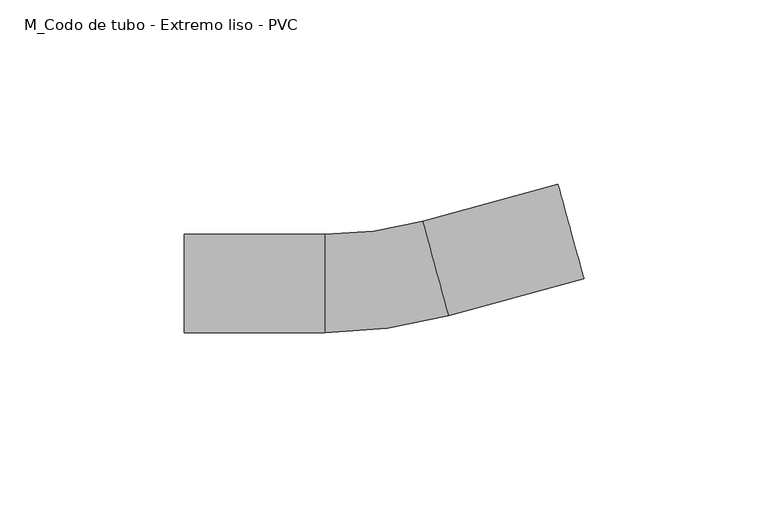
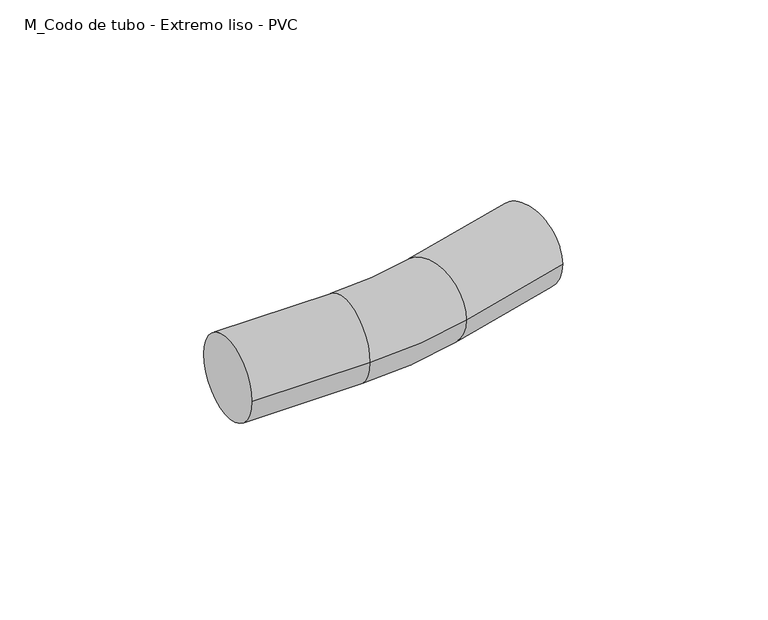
"""IFC4 building model written with IfcOpenShell, lengths in millimetres: cable carrier fitting geometry, M_Codo de tubo - Extremo liso - PVC : CODO ILUMINACION."""

from ifc_helpers import new_model, si_unit, point, frame, origin, place, context, project, spatial, circle_curve, ellipse_curve, trimmed, source, transform, mapped, element, save
from ifc_brep_helpers import plane_surface, cylinder_surface, revolved_surface, advanced_brep


def m_codo_de_tubo_extremo_liso_pvc_ceb821ea(model_context):
    return source(origin(), model_context, "Body", "AdvancedBrep", [
        advanced_brep(
        [(-53.4363503, -13.335, 0.0), (-53.4363503, 13.335, 0.0), (-15.3363503, -13.335, 0.0), (-15.3363503, 13.335, 0.0), (11.2787103, 16.9061102, 0.0), (18.3091036, -8.8205777, 0.0), (55.0615149, 1.2228414, 0.0), (48.0311215, 26.9495293, 0.0)],
        [
            (0, 1, circle_curve(frame((-53.4363503, 0.0, 0.0), z_axis=(-1.0, 0.0, 0.0), x_axis=(0.0, 1.0, 0.0)), 13.335)),
            (1, 0, circle_curve(frame((-53.4363503, 0.0, 0.0), z_axis=(-1.0, 0.0, 0.0), x_axis=(0.0, 1.0, 0.0)), 13.335)),
            (0, 2),
            (2, 3, circle_curve(frame((-15.3363503, 0.0, 0.0), z_axis=(-1.0, 0.0, 0.0), x_axis=(0.0, 1.0, 0.0)), 13.335)),
            (3, 1),
            (3, 2, circle_curve(frame((-15.3363503, 0.0, 0.0), z_axis=(-1.0, 0.0, 0.0), x_axis=(0.0, 1.0, 0.0)), 13.335)),
            (4, 3, circle_curve(frame((-15.3363503, 114.3, 0.0), z_axis=(0.0, 0.0, -1.0), x_axis=(0.0, -1.0, 0.0)), 100.965)),
            (2, 5, circle_curve(frame((-15.3363503, 114.3, 0.0), z_axis=(0.0, 0.0, 1.0), x_axis=(0.0, -1.0, 0.0)), 127.635)),
            (5, 4, circle_curve(frame((14.793907, 4.0427662, 0.0), z_axis=(-0.9646302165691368, -0.263606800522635, 0.0), x_axis=(-0.263606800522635, 0.9646302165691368, 0.0)), 13.335)),
            (4, 5, circle_curve(frame((14.793907, 4.0427662, 0.0), z_axis=(-0.9646302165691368, -0.263606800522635, 0.0), x_axis=(-0.263606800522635, 0.9646302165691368, 0.0)), 13.335)),
            (6, 7, circle_curve(frame((51.5463182, 14.0861853, 0.0), z_axis=(0.9646302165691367, 0.2636068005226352, 0.0), x_axis=(-0.2636068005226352, 0.9646302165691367, 0.0)), 13.335)),
            (7, 6, circle_curve(frame((51.5463182, 14.0861853, 0.0), z_axis=(0.9646302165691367, 0.2636068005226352, 0.0), x_axis=(-0.2636068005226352, 0.9646302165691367, 0.0)), 13.335)),
            (5, 6),
            (7, 4),
        ],
        [
            plane_surface(frame((-53.4363503, 0.0, 0.0), z_axis=(-1.0, 0.0, 0.0), x_axis=(0.0, 0.0, 1.0))),
            cylinder_surface(frame((-53.4363503, 0.0, 0.0), z_axis=(-1.0, 0.0, 0.0), x_axis=(0.0, 1.0, 0.0)), 13.335),
            revolved_surface(trimmed(ellipse_curve(frame((-15.3363503, 0.0, 0.0), z_axis=(-1.0, 0.0, 0.0), x_axis=(0.0, 1.0, 0.0)), 13.335, 13.335), [point((-15.3363503, -13.335, 0.0))], [point((-15.3363503, 13.335, 0.0))], True, "CARTESIAN"), (-15.3363503, 114.3, 0.0), (0.0, 0.0, 1.0)),
            revolved_surface(trimmed(ellipse_curve(frame((-15.3363503, 0.0, 0.0), z_axis=(-1.0, 0.0, 0.0), x_axis=(0.0, 1.0, 0.0)), 13.335, 13.335), [point((-15.3363503, 13.335, 0.0))], [point((-15.3363503, -13.335, 0.0))], True, "CARTESIAN"), (-15.3363503, 114.3, 0.0), (0.0, 0.0, 1.0)),
            plane_surface(frame((51.5463182, 14.0861853, 0.0), z_axis=(0.9646302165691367, 0.2636068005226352, 0.0), x_axis=(0.0, 0.0, 1.0))),
            cylinder_surface(frame((14.793907, 4.0427662, 0.0), z_axis=(-0.9646302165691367, -0.2636068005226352, 0.0), x_axis=(-0.2636068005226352, 0.9646302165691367, 0.0)), 13.335),
        ],
        [
            (0, [[1, 2]]),
            (1, [[-1, 3, 4, 5]]),
            (1, [[-2, -5, 6, -3]]),
            (2, [[7, -4, 8, 9]]),
            (3, [[-8, -6, -7, 10]]),
            (4, [[11, 12]]),
            (5, [[-9, 13, -12, 14]]),
            (5, [[-10, -14, -11, -13]]),
        ],
    ),
    ])


if __name__ == "__main__":
    model = new_model("IFC4")
    model_context = context("Model", 3, world=origin())
    ifc_project = project(units=[si_unit("LENGTHUNIT", "METRE", prefix="MILLI")], contexts=[model_context])
    site = spatial("IfcSite", under=ifc_project)
    building = spatial("IfcBuilding", under=site)
    placement = place(None, origin())
    m_codo_de_tubo_extremo_liso_pvc_shape = m_codo_de_tubo_extremo_liso_pvc_ceb821ea(model_context)
    element("IfcCableCarrierFitting", 1, ObjectType="M_Codo de tubo - Extremo liso - PVC : CODO ILUMINACION", at=placement, inside=building, context=model_context, shape_type="MappedRepresentation", body=[
        mapped(m_codo_de_tubo_extremo_liso_pvc_shape, transform((0.0, 0.0, 0.0), x_axis=(1.0, 0.0, 0.0), y_axis=(0.0, 1.0, 0.0), z_axis=(0.0, 0.0, 1.0))),
    ])
    save(model, "model.ifc")
